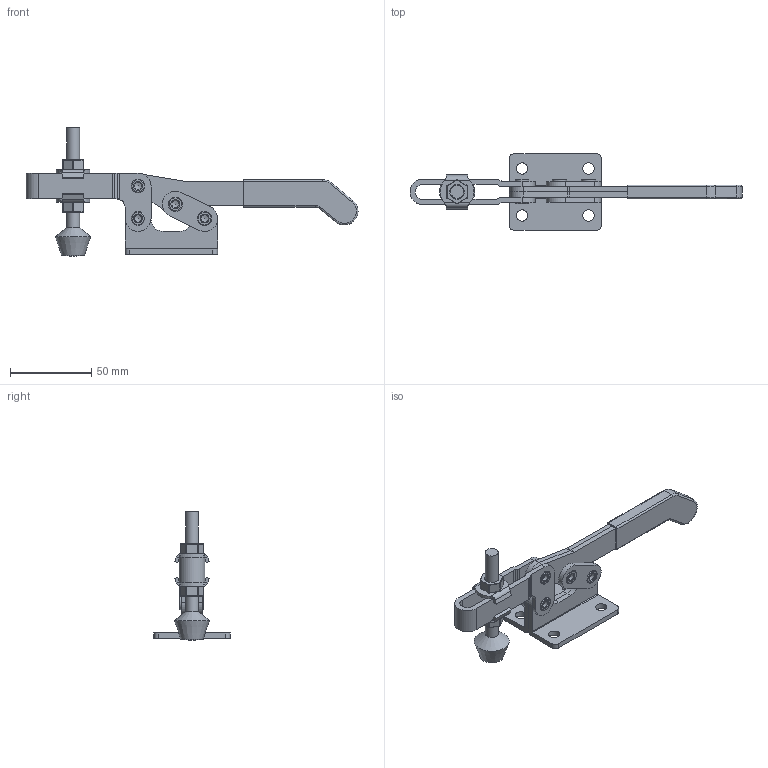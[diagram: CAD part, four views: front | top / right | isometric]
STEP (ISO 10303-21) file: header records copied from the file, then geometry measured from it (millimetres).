
FILE_DESCRIPTION(/* description */ (''),/* implementation_level */ '2;1');
FILE_NAME(/* name */ '\\NAS\db20\023-21F\DR_023-21F.stp',/* time_stamp */ '2018-03-02T15:06:47+09:00',/* author */ ('user'),/* organization */ (''),/* preprocessor_version */ 'ST-DEVELOPER v15.6',/* originating_system */ 'Autodesk Inventor 2015',/* authorisation */ '');
FILE_SCHEMA (('AUTOMOTIVE_DESIGN { 1 0 10303 214 3 1 1 }'));
Length unit declared in the file: millimetre
Products named in the file (9): DR_023-21F-B; DR_023-21F-BR; DR_023-21F-C; DR_023-21F-H; DR_TCB8-W; DR_NUT-M8; DR_TCB-M8; DR_023-21F
Bounding box: 204.5 x 47 x 79 mm (x, y, z)
Volume: 55744.8 mm3; surface area: 45517.6 mm2
Topology: 12 solids, 12 shells, 328 faces, 785 edges, 491 vertices
Faces by surface type: cylinder 145, plane 126, torus 38, cone 10, bspline 9
Full cylindrical faces by diameter (mm): 4.5 x4, 5 x12, 7 x4, 8 x3, 8.5 x6, 8.8 x2
Entity records: 8358 total; most frequent: CARTESIAN_POINT 1993, DIRECTION 1384, ORIENTED_EDGE 1154, EDGE_CURVE 577, AXIS2_PLACEMENT_3D 544, VERTEX_POINT 393, EDGE_LOOP 350, LINE 296
